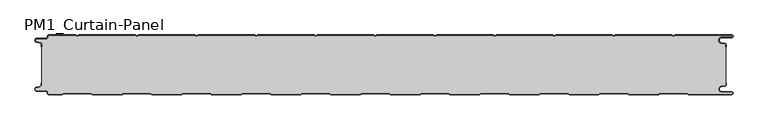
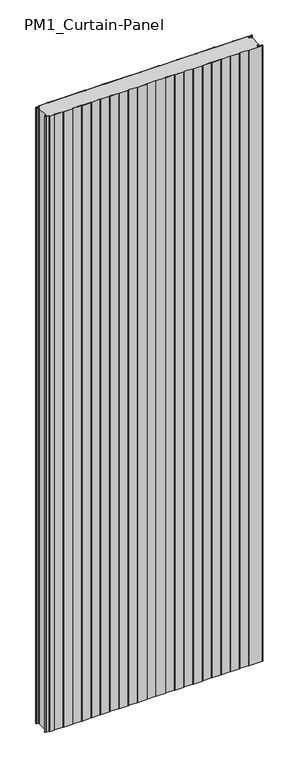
"""IFC4 building model written with IfcOpenShell, lengths in millimetres: plate geometry, PM1_Curtain-Panel : ACH_PM1_Stone-wool-Panel_100M."""

from ifc_helpers import new_model, si_unit, point, frame_2d, origin, origin_with_axes, place, context, project, spatial, polyline, circle_curve, trimmed, segment, composite_curve, outline, extrude, source, transform, mapped, element, save


def pm1_curtain_panel_095ba34b(model_context):
    return source(origin(), model_context, "Body", "SweptSolid", [
        extrude(outline(composite_curve([segment(trimmed(circle_curve(frame_2d((-577.0, -15.878557)), 2.0), [point((-575.0, -15.878557))], [point((-576.5500978, -13.9298169))], True, "CARTESIAN"), True, "CONTINUOUS"), segment(polyline([(-576.5500978, -13.9298169), (-582.7098239, -12.507732)]), True, "CONTINUOUS"), segment(trimmed(circle_curve(frame_2d((-581.9, -9.0)), 3.6), [point((-582.7098239, -12.507732))], [point((-581.9, -5.4))], False, "CARTESIAN"), True, "CONTINUOUS"), segment(polyline([(-581.9, -5.4), (-566.4, -5.4)]), True, "CONTINUOUS"), segment(trimmed(circle_curve(frame_2d((-566.4, -3.4)), 2.0), [point((-566.4, -5.4))], [point((-564.4, -3.4))], True, "CARTESIAN"), True, "CONTINUOUS"), segment(polyline([(-564.4, -3.4), (-564.4, -2.0)]), True, "CONTINUOUS"), segment(trimmed(circle_curve(frame_2d((-562.4, -2.0)), 2.0), [point((-564.4, -2.0))], [point((-562.4, 0.0))], False, "CARTESIAN"), True, "CONTINUOUS"), segment(polyline([(-562.4, 0.0), (-517.0999995, 0.0), (-514.4, -1.5588455), (-511.7000005, 0.0), (-417.0999995, 0.0), (-414.4, -1.5588455), (-411.7000005, 0.0), (-317.0999995, 0.0), (-314.4, -1.5588455), (-311.7000005, 0.0), (-217.0999995, 0.0), (-214.4, -1.5588455), (-211.7000005, 0.0), (-117.0999995, 0.0), (-114.4, -1.5588455), (-111.7000005, 0.0), (-17.0999995, 0.0), (-14.4, -1.5588455), (-11.7000005, 0.0), (82.9000005, 0.0), (85.6, -1.5588455), (88.2999995, 0.0), (182.9000005, 0.0), (185.6, -1.5588455), (188.2999995, 0.0), (282.9000005, 0.0), (285.6, -1.5588455), (288.2999995, 0.0), (382.9000005, 0.0), (385.6, -1.5588455), (388.2999995, 0.0), (482.9000005, 0.0), (485.6, -1.5588455), (488.2999995, 0.0), (583.1, 0.0)]), True, "CONTINUOUS"), segment(trimmed(circle_curve(frame_2d((583.1, -2.5)), 2.5), [point((583.1, 0.0))], [point((583.1, -5.0))], False, "CARTESIAN"), True, "CONTINUOUS"), segment(polyline([(583.1, -5.0), (566.1, -5.0)]), True, "CONTINUOUS"), segment(trimmed(circle_curve(frame_2d((566.1, -9.0)), 4.0), [point((566.1, -5.0))], [point((565.405407, -12.939231))], True, "CARTESIAN"), True, "CONTINUOUS"), segment(polyline([(565.405407, -12.939231), (571.8514855, -14.0758491)]), True, "CONTINUOUS"), segment(trimmed(circle_curve(frame_2d((571.4, -16.6363492)), 2.6), [point((571.8514855, -14.0758491))], [point((574.0, -16.6363492))], False, "CARTESIAN"), True, "CONTINUOUS"), segment(polyline([(574.0, -16.6363492), (574.0, -20.0), (573.2, -20.0), (573.2, -16.6363492)]), True, "CONTINUOUS"), segment(trimmed(circle_curve(frame_2d((571.4, -16.6363492)), 1.8), [point((573.2, -16.6363492))], [point((571.7125669, -14.8636953))], True, "CARTESIAN"), True, "CONTINUOUS"), segment(polyline([(571.7125669, -14.8636953), (565.2664884, -13.7270772)]), True, "CONTINUOUS"), segment(trimmed(circle_curve(frame_2d((566.1, -9.0)), 4.8), [point((565.2664884, -13.7270772))], [point((566.1, -4.2))], False, "CARTESIAN"), True, "CONTINUOUS"), segment(polyline([(566.1, -4.2), (583.1, -4.2)]), True, "CONTINUOUS"), segment(trimmed(circle_curve(frame_2d((583.1, -2.5)), 1.7), [point((583.1, -4.2))], [point((583.1, -0.8))], True, "CARTESIAN"), True, "CONTINUOUS"), segment(polyline([(583.1, -0.8), (488.5143588, -0.8), (485.6, -2.482606), (482.6856412, -0.8), (388.5143588, -0.8), (385.6, -2.482606), (382.6856412, -0.8), (288.5143588, -0.8), (285.6, -2.482606), (282.6856412, -0.8), (188.5143588, -0.8), (185.6, -2.482606), (182.6856412, -0.8), (88.5143588, -0.8), (85.6, -2.482606), (82.6856412, -0.8), (-11.4856412, -0.8), (-14.4, -2.482606), (-17.3143588, -0.8), (-111.4856412, -0.8), (-114.4, -2.482606), (-117.3143588, -0.8), (-211.4856412, -0.8), (-214.4, -2.482606), (-217.3143588, -0.8), (-311.4856412, -0.8), (-314.4, -2.482606), (-317.3143588, -0.8), (-411.4856412, -0.8), (-414.4, -2.482606), (-417.3143588, -0.8), (-511.4856412, -0.8), (-514.4, -2.482606), (-517.3143588, -0.8), (-562.4, -0.8)]), True, "CONTINUOUS"), segment(trimmed(circle_curve(frame_2d((-562.4, -2.0)), 1.2), [point((-562.4, -0.8))], [point((-563.6, -2.0))], True, "CARTESIAN"), True, "CONTINUOUS"), segment(polyline([(-563.6, -2.0), (-563.6, -3.4)]), True, "CONTINUOUS"), segment(trimmed(circle_curve(frame_2d((-566.4, -3.4)), 2.8), [point((-563.6, -3.4))], [point((-566.4, -6.2))], False, "CARTESIAN"), True, "CONTINUOUS"), segment(polyline([(-566.4, -6.2), (-581.9, -6.2)]), True, "CONTINUOUS"), segment(trimmed(circle_curve(frame_2d((-581.9, -9.0)), 2.8), [point((-581.9, -6.2))], [point((-582.529863, -11.7282362))], True, "CARTESIAN"), True, "CONTINUOUS"), segment(polyline([(-582.529863, -11.7282362), (-576.370137, -13.150321)]), True, "CONTINUOUS"), segment(trimmed(circle_curve(frame_2d((-577.0, -15.878557)), 2.8), [point((-576.370137, -13.150321))], [point((-574.2, -15.878557))], False, "CARTESIAN"), True, "CONTINUOUS"), segment(polyline([(-574.2, -15.878557), (-574.2, -20.0), (-575.0, -20.0), (-575.0, -15.878557)]), True, "CONTINUOUS")], self_intersect=False)), origin_with_axes(), (0.0, 0.0, 1.0), 3500.0),
        extrude(outline(composite_curve([segment(polyline([(-574.2, -84.121443), (-574.2, -15.8785573)]), True, "CONTINUOUS"), segment(trimmed(circle_curve(frame_2d((-577.0, -15.8785573)), 2.8), [point((-574.2, -15.8785573))], [point((-576.370137, -13.1503212))], True, "CARTESIAN"), True, "CONTINUOUS"), segment(polyline([(-576.370137, -13.1503212), (-582.5298631, -11.7282362)]), True, "CONTINUOUS"), segment(trimmed(circle_curve(frame_2d((-581.9, -9.0)), 2.8), [point((-582.5298631, -11.7282362))], [point((-581.9, -6.2))], False, "CARTESIAN"), True, "CONTINUOUS"), segment(polyline([(-581.9, -6.2), (-566.4000001, -6.2)]), True, "CONTINUOUS"), segment(trimmed(circle_curve(frame_2d((-566.4000001, -3.4)), 2.8), [point((-566.4000001, -6.2))], [point((-563.6000001, -3.4))], True, "CARTESIAN"), True, "CONTINUOUS"), segment(polyline([(-563.6000001, -3.4), (-563.6000001, -2.0)]), True, "CONTINUOUS"), segment(trimmed(circle_curve(frame_2d((-562.4000001, -2.0)), 1.2), [point((-563.6000001, -2.0))], [point((-562.4000001, -0.8))], False, "CARTESIAN"), True, "CONTINUOUS"), segment(polyline([(-562.4000001, -0.8), (-517.3143589, -0.8), (-514.4000001, -2.482606), (-511.4856412, -0.8), (-417.3143589, -0.8), (-414.4000001, -2.482606), (-411.4856412, -0.8), (-317.3143589, -0.8), (-314.4000001, -2.482606), (-311.4856412, -0.8), (-217.3143589, -0.8), (-214.4000001, -2.482606), (-211.4856412, -0.8), (-117.3143589, -0.8), (-114.4000001, -2.482606), (-111.4856412, -0.8), (-17.3143589, -0.8), (-14.4000001, -2.482606), (-11.4856412, -0.8), (82.6856411, -0.8), (85.5999999, -2.482606), (88.5143588, -0.8), (182.6856411, -0.8), (185.5999999, -2.482606), (188.5143588, -0.8), (282.6856411, -0.8), (285.5999999, -2.482606), (288.5143588, -0.8), (382.6856411, -0.8), (385.5999999, -2.482606), (388.5143588, -0.8), (482.6856411, -0.8), (485.6, -2.482606), (488.5143588, -0.8), (583.1, -0.8)]), True, "CONTINUOUS"), segment(trimmed(circle_curve(frame_2d((583.1, -2.5)), 1.7), [point((583.1, -0.8))], [point((583.1, -4.2))], False, "CARTESIAN"), True, "CONTINUOUS"), segment(polyline([(583.1, -4.2), (566.1, -4.2)]), True, "CONTINUOUS"), segment(trimmed(circle_curve(frame_2d((566.1, -9.0)), 4.8), [point((566.1, -4.2))], [point((565.2664883, -13.7270771))], True, "CARTESIAN"), True, "CONTINUOUS"), segment(polyline([(565.2664883, -13.7270771), (571.7125668, -14.8636953)]), True, "CONTINUOUS"), segment(trimmed(circle_curve(frame_2d((571.4, -16.6363492)), 1.8), [point((571.7125668, -14.8636953))], [point((573.2, -16.6363492))], False, "CARTESIAN"), True, "CONTINUOUS"), segment(polyline([(573.2, -16.6363492), (573.2, -83.363652)]), True, "CONTINUOUS"), segment(trimmed(circle_curve(frame_2d((571.4, -83.363652)), 1.8), [point((573.2, -83.363652))], [point((571.7125666, -85.1363059))], False, "CARTESIAN"), True, "CONTINUOUS"), segment(polyline([(571.7125666, -85.1363059), (565.266489, -86.272923)]), True, "CONTINUOUS"), segment(trimmed(circle_curve(frame_2d((566.1, -91.0000002)), 4.7999999), [point((565.266489, -86.272923))], [point((566.1, -95.8000001))], True, "CARTESIAN"), True, "CONTINUOUS"), segment(polyline([(566.1, -95.8000001), (583.1, -95.8000001)]), True, "CONTINUOUS"), segment(trimmed(circle_curve(frame_2d((583.1, -97.5)), 1.7), [point((583.1, -95.8000001))], [point((583.1, -99.2))], False, "CARTESIAN"), True, "CONTINUOUS"), segment(polyline([(583.1, -99.2), (510.8105122, -99.2), (508.2124346, -97.7), (462.9837184, -97.7), (460.3856408, -99.2), (410.8105122, -99.2), (408.2124346, -97.7), (362.9837184, -97.7), (360.3856408, -99.2), (310.8105122, -99.2), (308.2124346, -97.7), (262.9837184, -97.7), (260.3856408, -99.2), (210.8105122, -99.2), (208.2124346, -97.7), (162.9837184, -97.7), (160.3856408, -99.2), (110.8105122, -99.2), (108.2124346, -97.7), (62.9837184, -97.7), (60.3856408, -99.2), (10.8105122, -99.2), (8.2124346, -97.7), (-37.0162816, -97.7), (-39.6143592, -99.2), (-89.1894878, -99.2), (-91.7875654, -97.7), (-137.0162816, -97.7), (-139.6143592, -99.2), (-189.1894878, -99.2), (-191.7875654, -97.7), (-237.0162816, -97.7), (-239.6143592, -99.2), (-289.1894878, -99.2), (-291.7875654, -97.7), (-337.0162816, -97.7), (-339.6143592, -99.2), (-389.1894878, -99.2), (-391.7875654, -97.7), (-437.0162816, -97.7), (-439.6143592, -99.2), (-489.1894878, -99.2), (-491.7875654, -97.7), (-537.0162816, -97.7), (-539.6143592, -99.2), (-562.4, -99.2)]), True, "CONTINUOUS"), segment(trimmed(circle_curve(frame_2d((-562.4, -98.0)), 1.2), [point((-562.4, -99.2))], [point((-563.6, -98.0))], False, "CARTESIAN"), True, "CONTINUOUS"), segment(polyline([(-563.6, -98.0), (-563.6, -96.5999998)]), True, "CONTINUOUS"), segment(trimmed(circle_curve(frame_2d((-566.4, -96.5999998)), 2.8), [point((-563.6, -96.5999998))], [point((-566.4, -93.7999998))], True, "CARTESIAN"), True, "CONTINUOUS"), segment(polyline([(-566.4, -93.7999998), (-581.9, -93.7999998)]), True, "CONTINUOUS"), segment(trimmed(circle_curve(frame_2d((-581.9, -91.0)), 2.7999998), [point((-581.9, -93.7999998))], [point((-582.529863, -88.271764))], False, "CARTESIAN"), True, "CONTINUOUS"), segment(polyline([(-582.529863, -88.271764), (-576.370137, -86.8496792)]), True, "CONTINUOUS"), segment(trimmed(circle_curve(frame_2d((-577.0, -84.121443)), 2.8), [point((-576.370137, -86.8496792))], [point((-574.2, -84.121443))], True, "CARTESIAN"), True, "CONTINUOUS")], self_intersect=False)), origin_with_axes(), (0.0, 0.0, 1.0), 3500.0),
        extrude(outline(composite_curve([segment(trimmed(circle_curve(frame_2d((-562.4, -98.0)), 2.0), [point((-562.4, -100.0))], [point((-564.4, -98.0))], False, "CARTESIAN"), True, "CONTINUOUS"), segment(polyline([(-564.4, -98.0), (-564.4, -96.6)]), True, "CONTINUOUS"), segment(trimmed(circle_curve(frame_2d((-566.4, -96.6)), 2.0), [point((-564.4, -96.6))], [point((-566.4, -94.6))], True, "CARTESIAN"), True, "CONTINUOUS"), segment(polyline([(-566.4, -94.6), (-581.9, -94.6)]), True, "CONTINUOUS"), segment(trimmed(circle_curve(frame_2d((-581.9, -91.0)), 3.6), [point((-581.9, -94.6))], [point((-582.7098239, -87.4922678))], False, "CARTESIAN"), True, "CONTINUOUS"), segment(polyline([(-582.7098239, -87.4922678), (-576.5500979, -86.070183)]), True, "CONTINUOUS"), segment(trimmed(circle_curve(frame_2d((-577.0, -84.121443)), 2.0), [point((-576.5500979, -86.070183))], [point((-575.0, -84.121443))], True, "CARTESIAN"), True, "CONTINUOUS"), segment(polyline([(-575.0, -84.121443), (-575.0, -80.0), (-574.2, -80.0), (-574.2, -84.121443)]), True, "CONTINUOUS"), segment(trimmed(circle_curve(frame_2d((-577.0, -84.121443)), 2.8), [point((-574.2, -84.121443))], [point((-576.370137, -86.8496792))], False, "CARTESIAN"), True, "CONTINUOUS"), segment(polyline([(-576.370137, -86.8496792), (-582.529863, -88.271764)]), True, "CONTINUOUS"), segment(trimmed(circle_curve(frame_2d((-581.9, -91.0)), 2.8), [point((-582.529863, -88.271764))], [point((-581.9, -93.8))], True, "CARTESIAN"), True, "CONTINUOUS"), segment(polyline([(-581.9, -93.8), (-566.4, -93.8)]), True, "CONTINUOUS"), segment(trimmed(circle_curve(frame_2d((-566.4, -96.6)), 2.8), [point((-566.4, -93.8))], [point((-563.6, -96.6))], False, "CARTESIAN"), True, "CONTINUOUS"), segment(polyline([(-563.6, -96.6), (-563.6, -98.0)]), True, "CONTINUOUS"), segment(trimmed(circle_curve(frame_2d((-562.4, -98.0)), 1.2), [point((-563.6, -98.0))], [point((-562.4, -99.2))], True, "CARTESIAN"), True, "CONTINUOUS"), segment(polyline([(-562.4, -99.2), (-539.6143592, -99.2), (-537.0162816, -97.7), (-491.7875654, -97.7), (-489.1894878, -99.2), (-439.6143592, -99.2), (-437.0162816, -97.7), (-391.7875654, -97.7), (-389.1894878, -99.2), (-339.6143592, -99.2), (-337.0162816, -97.7), (-291.7875654, -97.7), (-289.1894878, -99.2), (-239.6143592, -99.2), (-237.0162816, -97.7), (-191.7875654, -97.7), (-189.1894878, -99.2), (-139.6143592, -99.2), (-137.0162816, -97.7), (-91.7875654, -97.7), (-89.1894878, -99.2), (-39.6143592, -99.2), (-37.0162816, -97.7), (8.2124346, -97.7), (10.8105122, -99.2), (60.3856408, -99.2), (62.9837184, -97.7), (108.2124346, -97.7), (110.8105122, -99.2), (160.3856408, -99.2), (162.9837184, -97.7), (208.2124346, -97.7), (210.8105122, -99.2), (260.3856408, -99.2), (262.9837184, -97.7), (308.2124346, -97.7), (310.8105122, -99.2), (360.3856408, -99.2), (362.9837184, -97.7), (408.2124346, -97.7), (410.8105122, -99.2), (460.3856408, -99.2), (462.9837184, -97.7), (508.2124346, -97.7), (510.8105122, -99.2), (583.1, -99.2)]), True, "CONTINUOUS"), segment(trimmed(circle_curve(frame_2d((583.1, -97.5)), 1.7), [point((583.1, -99.2))], [point((583.1, -95.8))], True, "CARTESIAN"), True, "CONTINUOUS"), segment(polyline([(583.1, -95.8), (566.1, -95.8)]), True, "CONTINUOUS"), segment(trimmed(circle_curve(frame_2d((566.1, -91.0)), 4.8), [point((566.1, -95.8))], [point((565.266489, -86.2729227))], False, "CARTESIAN"), True, "CONTINUOUS"), segment(polyline([(565.266489, -86.2729227), (571.7125666, -85.1363058)]), True, "CONTINUOUS"), segment(trimmed(circle_curve(frame_2d((571.4, -83.363652)), 1.8), [point((571.7125666, -85.1363058))], [point((573.2, -83.363652))], True, "CARTESIAN"), True, "CONTINUOUS"), segment(polyline([(573.2, -83.363652), (573.2, -80.0), (574.0, -80.0), (574.0, -83.363652)]), True, "CONTINUOUS"), segment(trimmed(circle_curve(frame_2d((571.4, -83.363652)), 2.6), [point((574.0, -83.363652))], [point((571.8514851, -85.9241522))], False, "CARTESIAN"), True, "CONTINUOUS"), segment(polyline([(571.8514851, -85.9241522), (565.4054075, -87.0607691)]), True, "CONTINUOUS"), segment(trimmed(circle_curve(frame_2d((566.1, -91.0)), 4.0), [point((565.4054075, -87.0607691))], [point((566.1, -95.0))], True, "CARTESIAN"), True, "CONTINUOUS"), segment(polyline([(566.1, -95.0), (583.1, -95.0)]), True, "CONTINUOUS"), segment(trimmed(circle_curve(frame_2d((583.1, -97.5)), 2.5), [point((583.1, -95.0))], [point((583.1, -100.0))], False, "CARTESIAN"), True, "CONTINUOUS"), segment(polyline([(583.1, -100.0), (510.5961529, -100.0), (507.9980753, -98.5), (463.1980777, -98.5), (460.6000001, -100.0), (410.5961529, -100.0), (407.9980753, -98.5), (363.1980777, -98.5), (360.6000001, -100.0), (310.5961529, -100.0), (307.9980753, -98.5), (263.1980777, -98.5), (260.6000001, -100.0), (210.5961529, -100.0), (207.9980753, -98.5), (163.1980777, -98.5), (160.6000001, -100.0), (110.5961529, -100.0), (107.9980753, -98.5), (63.1980777, -98.5), (60.6000001, -100.0), (10.5961529, -100.0), (7.9980753, -98.5), (-36.8019223, -98.5), (-39.3999999, -100.0), (-89.4038471, -100.0), (-92.0019247, -98.5), (-136.8019223, -98.5), (-139.3999999, -100.0), (-189.4038471, -100.0), (-192.0019247, -98.5), (-236.8019223, -98.5), (-239.3999999, -100.0), (-289.4038471, -100.0), (-292.0019247, -98.5), (-336.8019223, -98.5), (-339.3999999, -100.0), (-389.4038471, -100.0), (-392.0019247, -98.5), (-436.8019223, -98.5), (-439.3999999, -100.0), (-489.4038471, -100.0), (-492.0019247, -98.5), (-536.8019223, -98.5), (-539.3999999, -100.0), (-562.4, -100.0)]), True, "CONTINUOUS")], self_intersect=False)), origin_with_axes(), (0.0, 0.0, 1.0), 3500.0),
    ])


if __name__ == "__main__":
    model = new_model("IFC4")
    model_context = context("Model", 3, world=origin())
    ifc_project = project(units=[si_unit("LENGTHUNIT", "METRE", prefix="MILLI")], contexts=[model_context])
    site = spatial("IfcSite", under=ifc_project)
    building = spatial("IfcBuilding", under=site)
    placement = place(None, origin())
    pm1_curtain_panel_shape = pm1_curtain_panel_095ba34b(model_context)
    element("IfcPlate", 1, ObjectType="PM1_Curtain-Panel : ACH_PM1_Stone-wool-Panel_100M", at=placement, inside=building, context=model_context, shape_type="MappedRepresentation", body=[
        mapped(pm1_curtain_panel_shape, transform((0.0, 0.0, 0.0), x_axis=(1.0, 0.0, 0.0), y_axis=(0.0, 1.0, 0.0), z_axis=(0.0, 0.0, 1.0))),
    ])
    save(model, "model.ifc")
